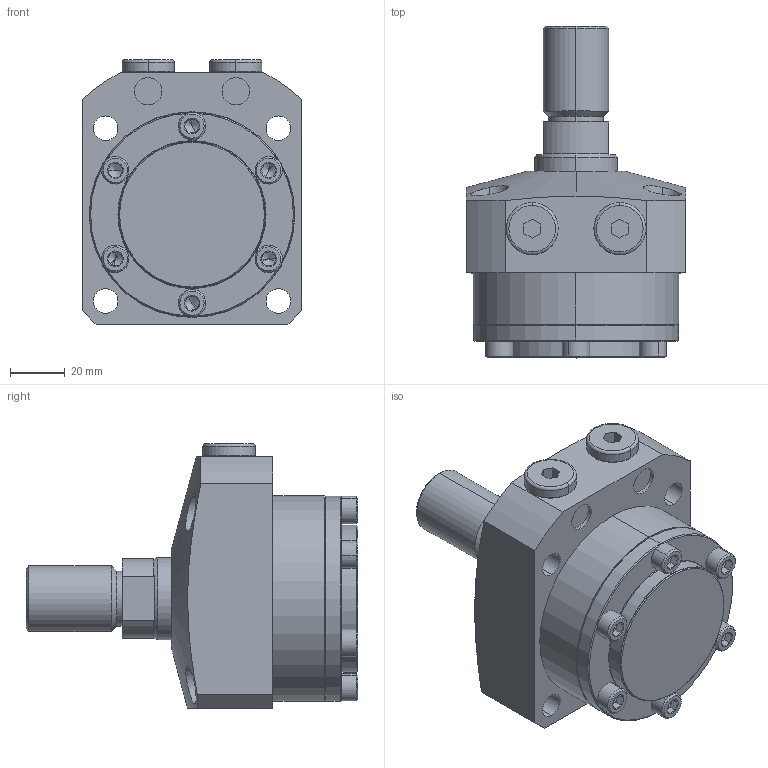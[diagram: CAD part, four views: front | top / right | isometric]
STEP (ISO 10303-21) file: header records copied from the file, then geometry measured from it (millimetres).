
FILE_DESCRIPTION (( 'STEP AP203' ), '1' );
FILE_NAME ('680750-CT-015.step', '2016-11-02T03:27:42', ( 'wxp' ), ( '' ), 'SwSTEP 2.0', 'SolidWorks 2011', '' );
FILE_SCHEMA (( 'CONFIG_CONTROL_DESIGN' ));
Length unit declared in the file: millimetre
Products named in the file (6): 680750-CT-015; 680750-CA-15-12^680750-CT-015; 68075-CA-15-5^680750-CT-015; 68075-CA-15-4^680750-CT-015; 68075-CA-15-3^680750-CT-015; 68075-CA-15-1^680750-CT-015
Assembly tree (11 placements, depth 2):
  680750-CT-015
    68075-CA-15-1^680750-CT-015
    68075-CA-15-4^680750-CT-015  x6
    68075-CA-15-3^680750-CT-015
    68075-CA-15-5^680750-CT-015  x2
    680750-CA-15-12^680750-CT-015
Bounding box: 80 x 121 x 96.5 mm (x, y, z)
Volume: 377519.4 mm3; surface area: 59886.1 mm2
Topology: 11 solids, 11 shells, 344 faces, 672 edges, 367 vertices
Faces by surface type: plane 139, cone 96, cylinder 93, torus 16
Entity records: 5673 total; most frequent: CARTESIAN_POINT 1211, DIRECTION 853, ORIENTED_EDGE 692, AXIS2_PLACEMENT_3D 356, EDGE_CURVE 346, VERTEX_POINT 210, EDGE_LOOP 200, CIRCLE 179
